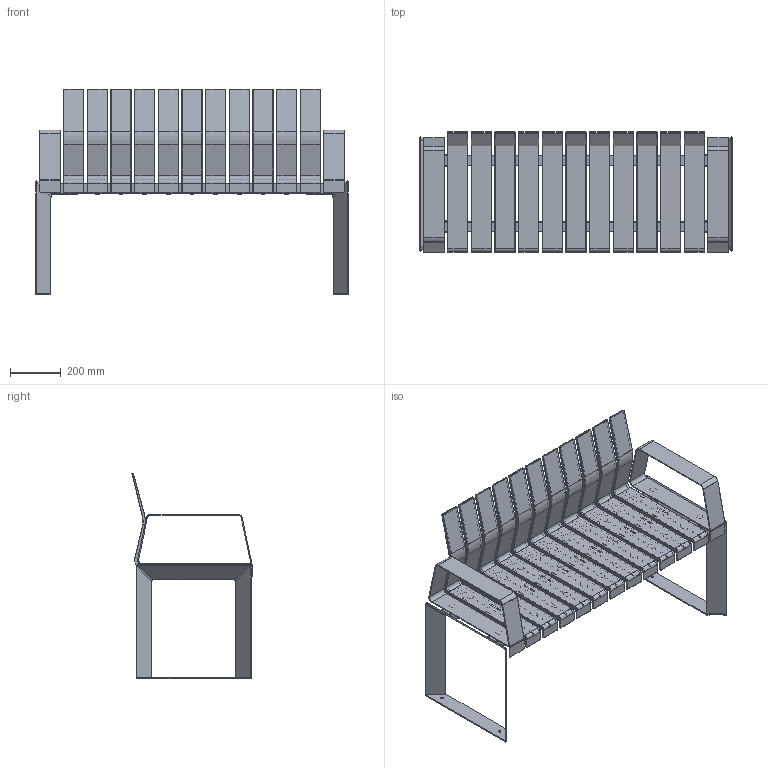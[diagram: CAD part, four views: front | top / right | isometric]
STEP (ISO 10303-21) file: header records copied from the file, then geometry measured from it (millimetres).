
FILE_DESCRIPTION(('STEP AP203'),'1');
FILE_NAME('UT80PL1351AXX + FIANCHI.stp','2025-11-11T12:59:42',(' '),(' '),'Spatial InterOp 3D',' ',' ');
FILE_SCHEMA(('CONFIG_CONTROL_DESIGN'));
Length unit declared in the file: millimetre
Products named in the file (1): UT80PL1351AXX + FIANCHI
Bounding box: 1229.16 x 472.09 x 809.28 mm (x, y, z)
Surface area: 3383361.8 mm2 (no closed solid volume)
Topology: 0 solids, 250 shells, 3608 faces, 14452 edges, 10612 vertices
Faces by surface type: plane 1447, cylinder 1408, torus 462, bspline 218, cone 37, extrusion 36
Full cylindrical faces by diameter (mm): 6.8 x8, 8 x4, 10 x4, 13 x8, 17.8 x30, 25 x4
Entity records: 174168 total; most frequent: CARTESIAN_POINT 59624, DIRECTION 23205, ORIENTED_EDGE 20915, EDGE_CURVE 14311, VERTEX_POINT 10596, VECTOR 8303, LINE 8267, AXIS2_PLACEMENT_3D 7451
